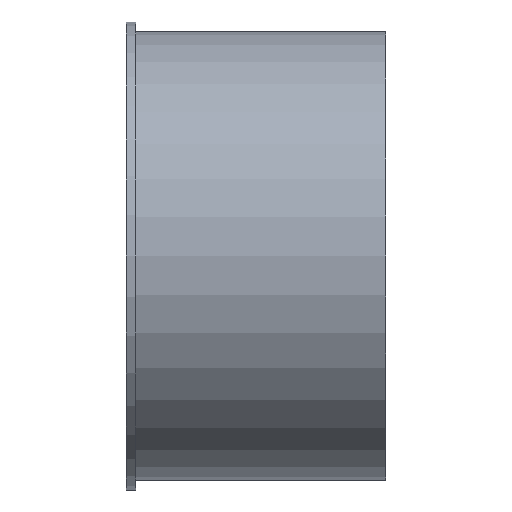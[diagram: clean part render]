
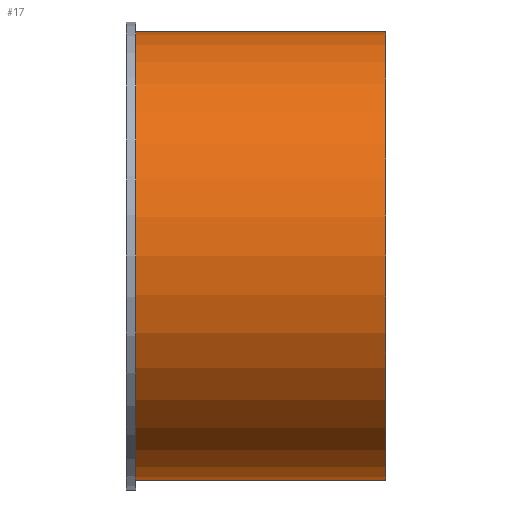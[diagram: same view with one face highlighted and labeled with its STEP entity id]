
A CAD part, front view. The second image highlights one B-rep face of the part: STEP entity #17.
In plain terms, the highlighted cylindrical face has radius 7 mm (diameter 14 mm), a full revolution.
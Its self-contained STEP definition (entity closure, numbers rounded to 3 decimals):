
#17 = ADVANCED_FACE('',(#18),#32,.T.);
#18 = FACE_BOUND('',#19,.T.);
#19 = EDGE_LOOP('',(#20,#50,#77,#78));
#20 = ORIENTED_EDGE('',*,*,#21,.T.);
#21 = EDGE_CURVE('',#22,#24,#26,.T.);
#22 = VERTEX_POINT('',#23);
#23 = CARTESIAN_POINT('',(47.7,-49.893,-46.918));
#24 = VERTEX_POINT('',#25);
#25 = CARTESIAN_POINT('',(55.5,-49.893,-46.918));
#26 = SEAM_CURVE('',#27,(#31,#43),.PCURVE_S1.);
#27 = LINE('',#28,#29);
#28 = CARTESIAN_POINT('',(47.4,-49.893,-46.918));
#29 = VECTOR('',#30,1.);
#30 = DIRECTION('',(1.,0.,0.));
#31 = PCURVE('',#32,#37);
#32 = CYLINDRICAL_SURFACE('',#33,7.);
#33 = AXIS2_PLACEMENT_3D('',#34,#35,#36);
#34 = CARTESIAN_POINT('',(47.4,-49.893,-53.918));
#35 = DIRECTION('',(1.,0.,0.));
#36 = DIRECTION('',(-0.,0.,1.));
#37 = DEFINITIONAL_REPRESENTATION('',(#38),#42);
#38 = LINE('',#39,#40);
#39 = CARTESIAN_POINT('',(6.283,-0.));
#40 = VECTOR('',#41,1.);
#41 = DIRECTION('',(0.,1.));
#42 = ( GEOMETRIC_REPRESENTATION_CONTEXT(2) 
PARAMETRIC_REPRESENTATION_CONTEXT() REPRESENTATION_CONTEXT('2D SPACE',''
  ) );
#43 = PCURVE('',#32,#44);
#44 = DEFINITIONAL_REPRESENTATION('',(#45),#49);
#45 = LINE('',#46,#47);
#46 = CARTESIAN_POINT('',(0.,-0.));
#47 = VECTOR('',#48,1.);
#48 = DIRECTION('',(0.,1.));
#49 = ( GEOMETRIC_REPRESENTATION_CONTEXT(2) 
PARAMETRIC_REPRESENTATION_CONTEXT() REPRESENTATION_CONTEXT('2D SPACE',''
  ) );
#50 = ORIENTED_EDGE('',*,*,#51,.F.);
#51 = EDGE_CURVE('',#24,#24,#52,.T.);
#52 = SURFACE_CURVE('',#53,(#58,#65),.PCURVE_S1.);
#53 = CIRCLE('',#54,7.);
#54 = AXIS2_PLACEMENT_3D('',#55,#56,#57);
#55 = CARTESIAN_POINT('',(55.5,-49.893,-53.918));
#56 = DIRECTION('',(1.,0.,0.));
#57 = DIRECTION('',(-0.,0.,1.));
#58 = PCURVE('',#32,#59);
#59 = DEFINITIONAL_REPRESENTATION('',(#60),#64);
#60 = LINE('',#61,#62);
#61 = CARTESIAN_POINT('',(0.,8.1));
#62 = VECTOR('',#63,1.);
#63 = DIRECTION('',(1.,0.));
#64 = ( GEOMETRIC_REPRESENTATION_CONTEXT(2) 
PARAMETRIC_REPRESENTATION_CONTEXT() REPRESENTATION_CONTEXT('2D SPACE',''
  ) );
#65 = PCURVE('',#66,#71);
#66 = PLANE('',#67);
#67 = AXIS2_PLACEMENT_3D('',#68,#69,#70);
#68 = CARTESIAN_POINT('',(55.5,-49.893,-53.918));
#69 = DIRECTION('',(1.,0.,0.));
#70 = DIRECTION('',(-0.,0.,1.));
#71 = DEFINITIONAL_REPRESENTATION('',(#72),#76);
#72 = CIRCLE('',#73,7.);
#73 = AXIS2_PLACEMENT_2D('',#74,#75);
#74 = CARTESIAN_POINT('',(0.,0.));
#75 = DIRECTION('',(1.,0.));
#76 = ( GEOMETRIC_REPRESENTATION_CONTEXT(2) 
PARAMETRIC_REPRESENTATION_CONTEXT() REPRESENTATION_CONTEXT('2D SPACE',''
  ) );
#77 = ORIENTED_EDGE('',*,*,#21,.F.);
#78 = ORIENTED_EDGE('',*,*,#79,.T.);
#79 = EDGE_CURVE('',#22,#22,#80,.T.);
#80 = SURFACE_CURVE('',#81,(#86,#93),.PCURVE_S1.);
#81 = CIRCLE('',#82,7.);
#82 = AXIS2_PLACEMENT_3D('',#83,#84,#85);
#83 = CARTESIAN_POINT('',(47.7,-49.893,-53.918));
#84 = DIRECTION('',(1.,0.,0.));
#85 = DIRECTION('',(-0.,0.,1.));
#86 = PCURVE('',#32,#87);
#87 = DEFINITIONAL_REPRESENTATION('',(#88),#92);
#88 = LINE('',#89,#90);
#89 = CARTESIAN_POINT('',(0.,0.3));
#90 = VECTOR('',#91,1.);
#91 = DIRECTION('',(1.,0.));
#92 = ( GEOMETRIC_REPRESENTATION_CONTEXT(2) 
PARAMETRIC_REPRESENTATION_CONTEXT() REPRESENTATION_CONTEXT('2D SPACE',''
  ) );
#93 = PCURVE('',#94,#99);
#94 = PLANE('',#95);
#95 = AXIS2_PLACEMENT_3D('',#96,#97,#98);
#96 = CARTESIAN_POINT('',(47.7,-49.893,-53.918));
#97 = DIRECTION('',(1.,0.,0.));
#98 = DIRECTION('',(-0.,0.,1.));
#99 = DEFINITIONAL_REPRESENTATION('',(#100),#104);
#100 = CIRCLE('',#101,7.);
#101 = AXIS2_PLACEMENT_2D('',#102,#103);
#102 = CARTESIAN_POINT('',(0.,0.));
#103 = DIRECTION('',(1.,0.));
#104 = ( GEOMETRIC_REPRESENTATION_CONTEXT(2) 
PARAMETRIC_REPRESENTATION_CONTEXT() REPRESENTATION_CONTEXT('2D SPACE',''
  ) );
